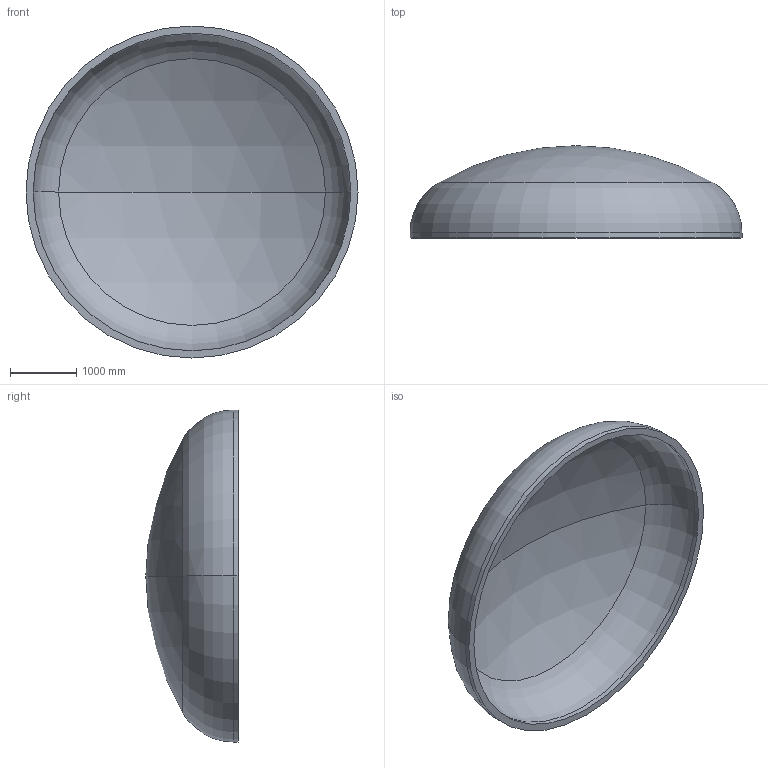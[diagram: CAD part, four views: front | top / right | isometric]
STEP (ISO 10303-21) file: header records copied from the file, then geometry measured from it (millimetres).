
FILE_DESCRIPTION (( 'STEP AP203' ), '1' );
FILE_NAME ('DIN 28013 Korbbogenform_-_Boden DIN 28013 - 5000 x 75 - I - s=108.step', '2016-07-02T00:58:51', ( '' ), ( '' ), 'SwSTEP 2.0', 'SolidWorks 2013', '' );
FILE_SCHEMA (( 'CONFIG_CONTROL_DESIGN' ));
Length unit declared in the file: millimetre
Products named in the file (1): DIN 28013 Korbbogenform_-_Boden DIN 28013 - 5000 x 75 - I - s=108
Bounding box: 5000 x 1389.79 x 5000 mm (x, y, z)
Volume: 2979204219.2 mm3; surface area: 56854674 mm2
Topology: 1 solids, 1 shells, 13 faces, 24 edges, 14 vertices
Faces by surface type: torus 4, cylinder 4, sphere 4, plane 1
Entity records: 407 total; most frequent: DIRECTION 72, CARTESIAN_POINT 52, ORIENTED_EDGE 48, AXIS2_PLACEMENT_3D 34, EDGE_CURVE 24, CIRCLE 20, VERTEX_POINT 14, EDGE_LOOP 14
